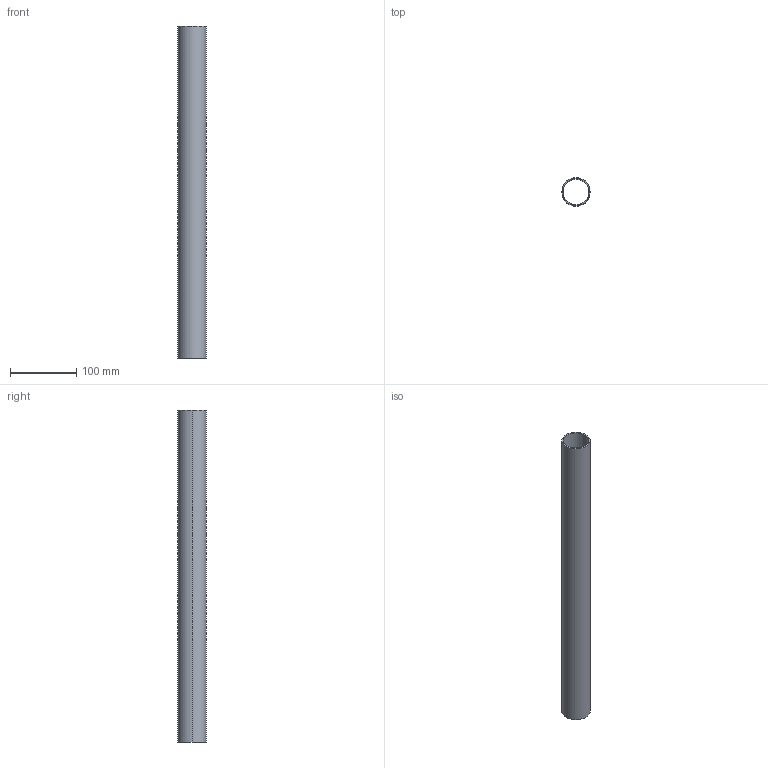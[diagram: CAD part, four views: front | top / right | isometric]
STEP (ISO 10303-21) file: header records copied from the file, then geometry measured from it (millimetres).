
FILE_DESCRIPTION (( 'STEP AP214' ), '1' );
FILE_NAME ('TU...-42.STEP', '2011-06-30T08:24:31', ( '.' ), ( '' ), 'SwSTEP 2.0', 'SolidWorks 2010', '' );
FILE_SCHEMA (( 'AUTOMOTIVE_DESIGN' ));
Length unit declared in the file: millimetre
Products named in the file (1): TU...-42
Bounding box: 42.4 x 42.4 x 500 mm (x, y, z)
Volume: 102541.6 mm3; surface area: 128587.1 mm2
Topology: 1 solids, 1 shells, 6 faces, 12 edges, 8 vertices
Faces by surface type: cylinder 4, plane 2
Entity records: 202 total; most frequent: DIRECTION 34, CARTESIAN_POINT 27, ORIENTED_EDGE 24, AXIS2_PLACEMENT_3D 15, EDGE_CURVE 12, CIRCLE 8, VERTEX_POINT 8, EDGE_LOOP 8
